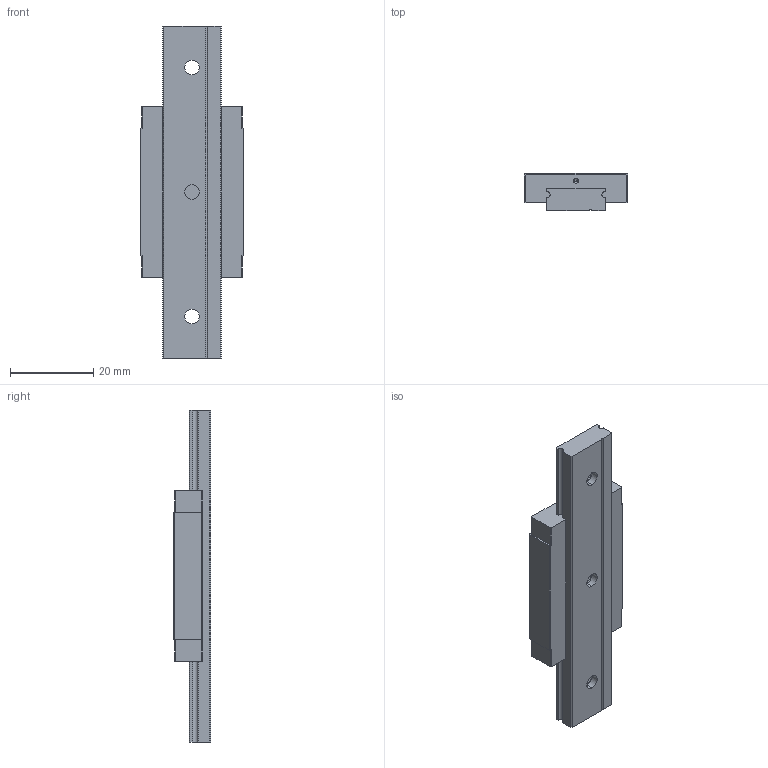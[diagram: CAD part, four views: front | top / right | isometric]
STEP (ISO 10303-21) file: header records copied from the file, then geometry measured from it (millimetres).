
FILE_DESCRIPTION((''),'2;1');
FILE_NAME('MGW7H_ASM','2008-07-11T',('minyao'),(''),'PRO/ENGINEER BY PARAMETRIC TECHNOLOGY CORPORATION, 2004360','PRO/ENGINEER BY PARAMETRIC TECHNOLOGY CORPORATION, 2004360','');
FILE_SCHEMA(('CONFIG_CONTROL_DESIGN'));
Length unit declared in the file: millimetre
Products named in the file (4): MANIFOLD_SOLID_BREP_359; MANIFOLD_SOLID_BREP_360; SAND94F7H90P_ASM; MGW7H_ASM
Assembly tree (3 placements, depth 3):
  MGW7H_ASM
    SAND94F7H90P_ASM
      MANIFOLD_SOLID_BREP_359
      MANIFOLD_SOLID_BREP_360
Bounding box: 25 x 9 x 80 mm (x, y, z)
Volume: 10516.7 mm3; surface area: 6898.2 mm2
Topology: 2 solids, 2 shells, 91 faces, 256 edges, 166 vertices
Faces by surface type: plane 49, cylinder 30, cone 12
Entity records: 3006 total; most frequent: DIRECTION 514, CARTESIAN_POINT 510, ORIENTED_EDGE 488, EDGE_CURVE 244, VECTOR 174, LINE 174, AXIS2_PLACEMENT_3D 170, VERTEX_POINT 166
